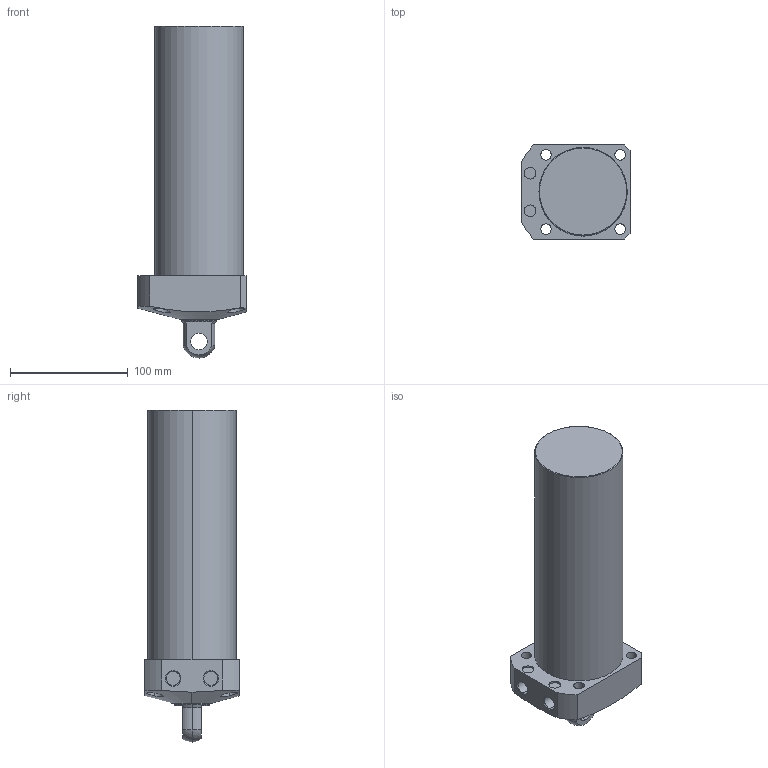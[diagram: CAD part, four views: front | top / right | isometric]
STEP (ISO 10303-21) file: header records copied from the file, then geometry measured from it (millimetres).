
FILE_DESCRIPTION (( 'STEP AP203' ), '1' );
FILE_NAME ('CLL-075CP-175.STEP', '2019-12-25T08:04:36', ( '' ), ( '' ), 'SwSTEP 2.0', 'SolidWorks 2015', '' );
FILE_SCHEMA (( 'CONFIG_CONTROL_DESIGN' ));
Length unit declared in the file: millimetre
Products named in the file (1): CLL-075CP-175
Bounding box: 92 x 80 x 282 mm (x, y, z)
Volume: 1164029.2 mm3; surface area: 81855 mm2
Topology: 1 solids, 1 shells, 68 faces, 159 edges, 103 vertices
Faces by surface type: cylinder 35, plane 21, cone 8, sphere 2, torus 2
Entity records: 2459 total; most frequent: CARTESIAN_POINT 762, DIRECTION 357, ORIENTED_EDGE 318, EDGE_CURVE 159, AXIS2_PLACEMENT_3D 149, VERTEX_POINT 103, EDGE_LOOP 88, CIRCLE 80
